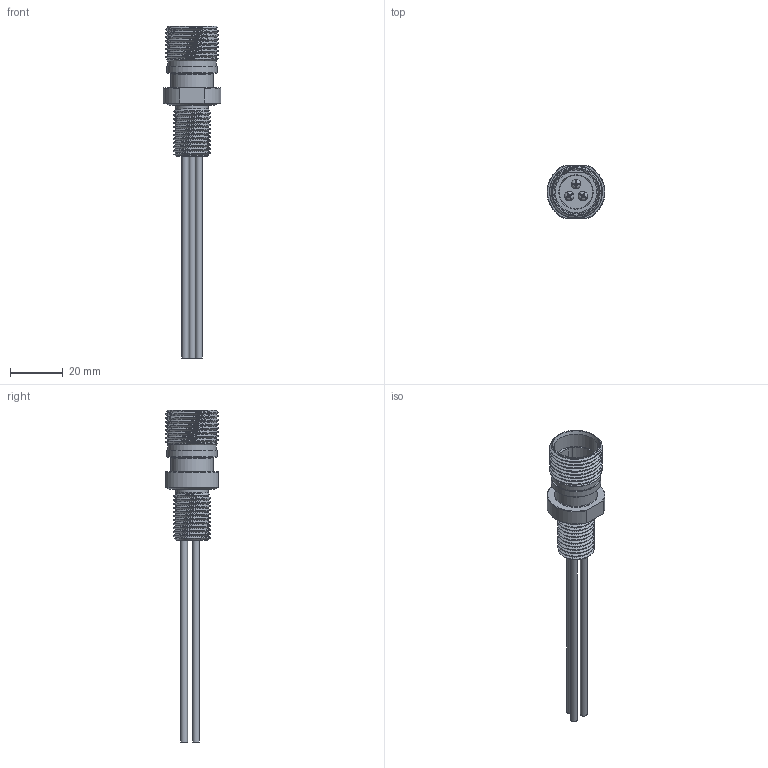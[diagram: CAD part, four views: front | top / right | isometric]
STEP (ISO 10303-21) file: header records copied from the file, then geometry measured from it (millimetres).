
FILE_DESCRIPTION (( 'STEP AP203' ), '1' );
FILE_NAME ('Cobalt 14mm Bulkhead 3 Pin.STEP', '2022-09-30T18:44:57', ( '' ), ( '' ), 'SwSTEP 2.0', 'SolidWorks 2022', '' );
FILE_SCHEMA (( 'CONFIG_CONTROL_DESIGN' ));
Length unit declared in the file: inch
Products named in the file (1): Cobalt 14mm Bulkhead 3 Pin
Bounding box: 22 x 20 x 126 mm (x, y, z)
Volume: 9035.4 mm3; surface area: 7966.4 mm2
Topology: 2 solids, 2 shells, 134 faces, 314 edges, 198 vertices
Faces by surface type: plane 57, cone 30, cylinder 23, torus 18, bspline 6
Full cylindrical faces by diameter (mm): 2.616 x3, 3.25 x3, 10.668 x1, 12.2 x1, 12.7 x1, 14.8 x1, 16 x1, 16.44 x1, 16.7 x1, 18.3 x1, 19 x1, 19.2 x1
Entity records: 9916 total; most frequent: CARTESIAN_POINT 7157, DIRECTION 541, ORIENTED_EDGE 518, EDGE_CURVE 259, AXIS2_PLACEMENT_3D 234, EDGE_LOOP 180, VERTEX_POINT 179, FACE_OUTER_BOUND 152
